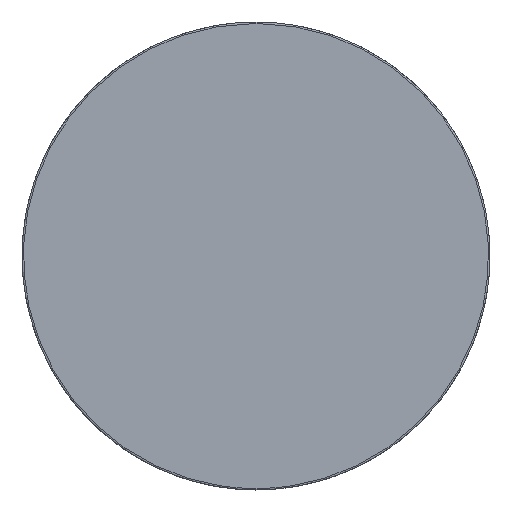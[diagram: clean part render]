
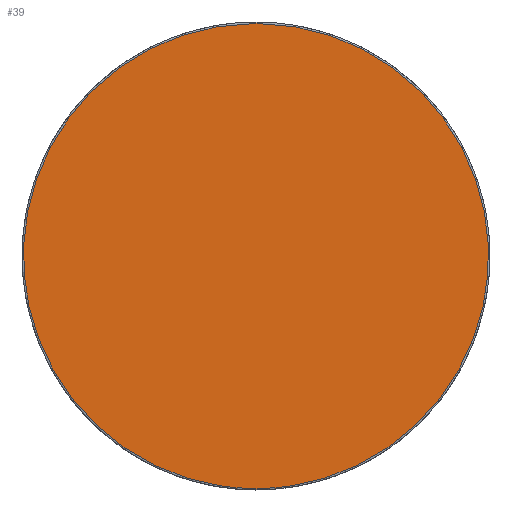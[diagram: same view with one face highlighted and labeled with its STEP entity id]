
A CAD part, top view. The second image highlights one B-rep face of the part: STEP entity #39.
In plain terms, the highlighted planar face has unit normal (0, 0, 1).
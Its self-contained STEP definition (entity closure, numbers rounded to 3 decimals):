
#39=ADVANCED_FACE('',(#79),#633,.T.);
#79=FACE_OUTER_BOUND('',#119,.T.);
#119=EDGE_LOOP('',(#171,#172));
#171=ORIENTED_EDGE('',*,*,#366,.F.);
#172=ORIENTED_EDGE('',*,*,#376,.T.);
#366=EDGE_CURVE('',#573,#574,#536,.T.);
#376=EDGE_CURVE('',#573,#574,#544,.T.);
#536=(
BOUNDED_CURVE()
B_SPLINE_CURVE(2,(#1118,#1119,#1120,#1121,#1122),.UNSPECIFIED.,.F.,.F.)
B_SPLINE_CURVE_WITH_KNOTS((3,2,3),(0.,507.367,1014.734),
 .UNSPECIFIED.)
CURVE()
GEOMETRIC_REPRESENTATION_ITEM()
RATIONAL_B_SPLINE_CURVE((1.,0.707,1.,0.707,1.))
REPRESENTATION_ITEM('')
);
#544=(
BOUNDED_CURVE()
B_SPLINE_CURVE(2,(#1158,#1159,#1160,#1161,#1162),.UNSPECIFIED.,.F.,.F.)
B_SPLINE_CURVE_WITH_KNOTS((3,2,3),(-1014.734,-507.367,0.),
 .UNSPECIFIED.)
CURVE()
GEOMETRIC_REPRESENTATION_ITEM()
RATIONAL_B_SPLINE_CURVE((1.,0.707,1.,0.707,1.))
REPRESENTATION_ITEM('')
);
#573=VERTEX_POINT('',#1101);
#574=VERTEX_POINT('',#1102);
#633=PLANE('',#695);
#695=AXIS2_PLACEMENT_3D('',#935,#734,$);
#734=DIRECTION('',(0.,0.,1.));
#935=CARTESIAN_POINT('',(-439.476,388.948,399.196));
#1101=CARTESIAN_POINT('',(-51.876,324.347,399.196));
#1102=CARTESIAN_POINT('',(-51.876,-321.653,399.196));
#1118=CARTESIAN_POINT('',(-51.876,324.347,399.196));
#1119=CARTESIAN_POINT('',(271.124,324.347,399.196));
#1120=CARTESIAN_POINT('',(271.124,1.347,399.196));
#1121=CARTESIAN_POINT('',(271.124,-321.653,399.196));
#1122=CARTESIAN_POINT('',(-51.876,-321.653,399.196));
#1158=CARTESIAN_POINT('',(-51.876,324.347,399.196));
#1159=CARTESIAN_POINT('',(-374.876,324.347,399.196));
#1160=CARTESIAN_POINT('',(-374.876,1.347,399.196));
#1161=CARTESIAN_POINT('',(-374.876,-321.653,399.196));
#1162=CARTESIAN_POINT('',(-51.876,-321.653,399.196));
